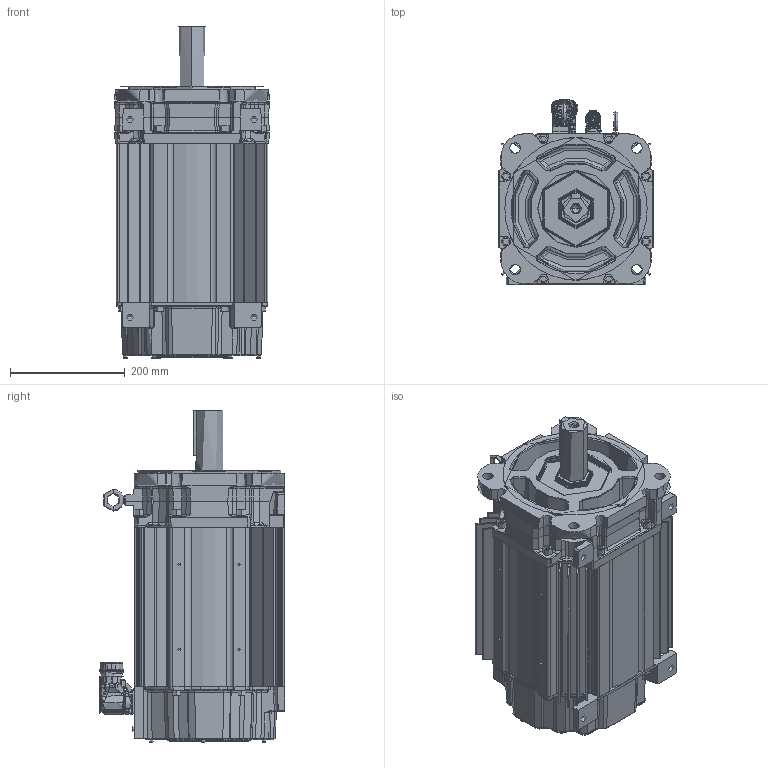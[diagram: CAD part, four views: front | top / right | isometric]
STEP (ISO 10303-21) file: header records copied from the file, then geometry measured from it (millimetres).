
FILE_DESCRIPTION((''),'2;1');
FILE_NAME('10005239751_ASM','2020-01-16T10:38:04',('VThimma'),('Rockwell Automation'),'CREO PARAMETRIC BY PTC INC, 2017380','CREO PARAMETRIC BY PTC INC, 2017380','');
FILE_SCHEMA(('CONFIG_CONTROL_DESIGN','SHAPE_APPEARANCE_LAYERS_GROUPS'));
Products named in the file (26): 10001441946; 10001404634_AF0; 10001404629_AF6; 10001404635_ASM; 10001585735; 10001441999_ASM; 10001439776; 10001566079_ASM; 10001405269_AF0; 10001405367_ASM; 10001586887; 0002-5004; 10001609981; 10001737030; 10000014325-2; 10000014331; 10000014332-460; 10000014330-460_ASM; 10000172464; PWR40CONN-BRK; PWR40BASE; 10000806125_ASM; 221404-Q12; 10001408124; 0011-2084; 10005239751_ASM
Assembly tree (51 placements, depth 4):
  10005239751_ASM
    10001441999_ASM
      10001441946
      10001404635_ASM
        10001404634_AF0
        10001404629_AF6
      10001585735  x8
    10001566079_ASM
      10001439776
    10001405367_ASM
      10001405269_AF0
    10001586887  x7
    0002-5004  x2
    10001609981
    10001737030
    10000014330-460_ASM
      10000014325-2
      10000014331
      10000014332-460
    10000172464  x4
    10000806125_ASM
      PWR40CONN-BRK
      PWR40BASE
    221404-Q12  x10
    10001408124
    0011-2084
Bounding box: 269.49 x 324.05 x 578.83 mm (x, y, z)
Topology: 0 solids, 62 shells, 7054 faces, 18345 edges, 11407 vertices
Faces by surface type: cylinder 2227, plane 1659, bspline 1506, torus 877, cone 579, sphere 163, extrusion 42, revolution 1
Entity records: 357491 total; most frequent: CARTESIAN_POINT 136707, ORIENTED_EDGE 30203, DIRECTION 25519, PRESENTATION_STYLE_ASSIGNMENT 20971, STYLED_ITEM 20971, CURVE_STYLE 15211, EDGE_CURVE 15169, AXIS2_PLACEMENT_3D 10350
